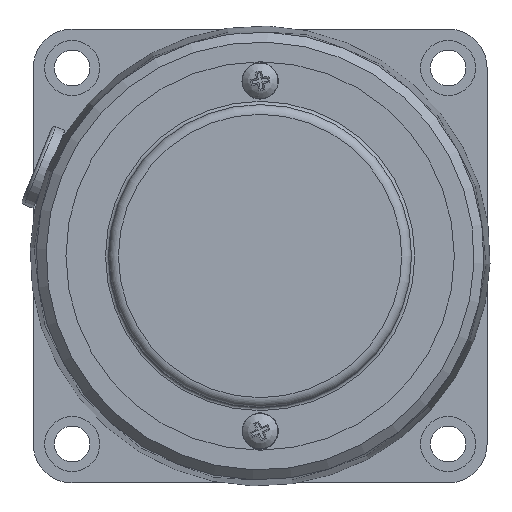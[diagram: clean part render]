
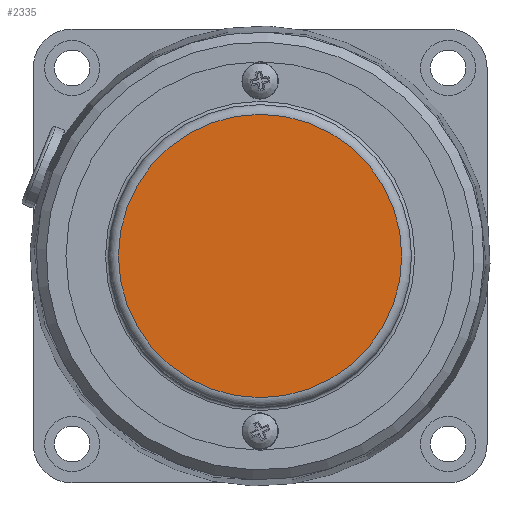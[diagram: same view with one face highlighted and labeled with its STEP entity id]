
A CAD part, left-side view. The second image highlights one B-rep face of the part: STEP entity #2335.
In plain terms, the highlighted planar face has unit normal (-1, 0, 0).
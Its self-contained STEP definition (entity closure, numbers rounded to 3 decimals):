
#2312=CARTESIAN_POINT('',(-50.5,0.,21.85));
#2313=VERTEX_POINT('',#2312);
#2314=CARTESIAN_POINT('',(-50.5,0.,0.));
#2315=DIRECTION('',(1.0,0.0,0.0));
#2316=DIRECTION('',(0.0,0.0,-1.0));
#2317=AXIS2_PLACEMENT_3D('',#2314,#2315,#2316);
#2318=CIRCLE('',#2317,21.85);
#2319=EDGE_CURVE('',#2313,#2313,#2318,.T.);
#2327=CARTESIAN_POINT('',(-50.5,0.,0.));
#2328=DIRECTION('',(1.0,0.0,0.0));
#2329=DIRECTION('',(0.0,0.0,-1.0));
#2330=AXIS2_PLACEMENT_3D('',#2327,#2328,#2329);
#2331=PLANE('',#2330);
#2332=ORIENTED_EDGE('',*,*,#2319,.F.);
#2333=EDGE_LOOP('',(#2332));
#2334=FACE_OUTER_BOUND('',#2333,.T.);
#2335=ADVANCED_FACE('',(#2334),#2331,.F.);
